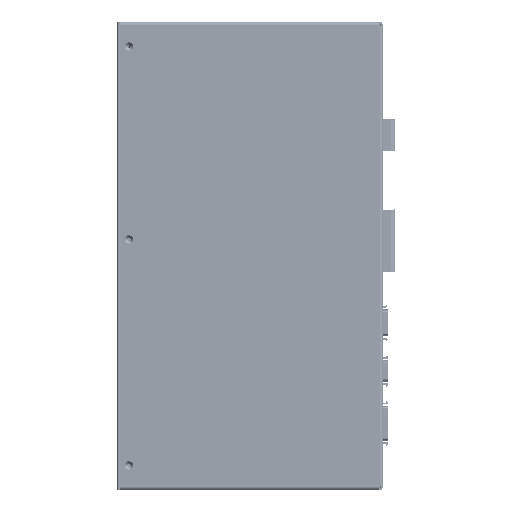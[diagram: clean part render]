
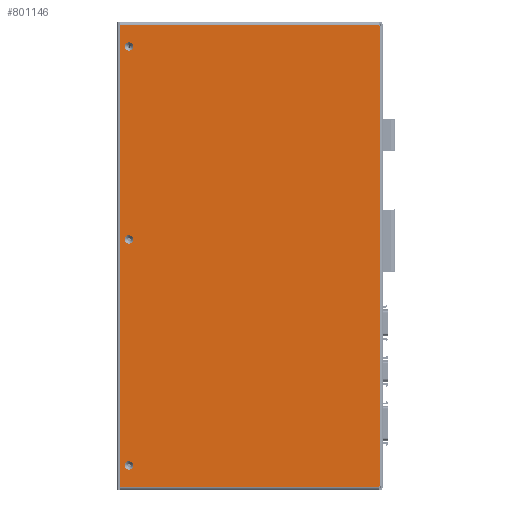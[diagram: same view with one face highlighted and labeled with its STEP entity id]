
A CAD part, front view. The second image highlights one B-rep face of the part: STEP entity #801146.
In plain terms, the highlighted planar face has unit normal (0, -1, 0) as drawn and (0, 0, -1) by its records, which use the part's own axes.
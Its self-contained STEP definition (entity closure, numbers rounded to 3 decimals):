
#758529=DIRECTION('',(0.,1.,0.));
#758530=VECTOR('',#758529,0.2);
#758531=CARTESIAN_POINT('',(-173.8,97.3,-32.));
#758532=LINE('',#758531,#758530);
#767457=DIRECTION('',(1.,0.,0.));
#767458=VECTOR('',#767457,0.2);
#767459=CARTESIAN_POINT('',(173.8,97.3,-32.));
#767460=LINE('',#767459,#767458);
#767479=DIRECTION('',(0.,-1.,0.));
#767480=VECTOR('',#767479,0.2);
#767481=CARTESIAN_POINT('',(173.8,97.5,-32.));
#767482=LINE('',#767481,#767480);
#767646=DIRECTION('',(0.,-1.,0.));
#767647=VECTOR('',#767646,195.9);
#767648=CARTESIAN_POINT('',(-174.,97.3,-32.));
#767649=LINE('',#767648,#767647);
#767650=DIRECTION('',(-1.,0.,0.));
#767651=VECTOR('',#767650,347.6);
#767652=CARTESIAN_POINT('',(173.8,97.5,-32.));
#767653=LINE('',#767652,#767651);
#767654=CARTESIAN_POINT('',(158.,-91.7,-32.));
#767655=DIRECTION('',(0.,0.,1.));
#767656=DIRECTION('',(1.,0.,0.));
#767657=AXIS2_PLACEMENT_3D('',#767654,#767655,#767656);
#767659=CARTESIAN_POINT('',(158.,-91.7,-32.));
#767660=DIRECTION('',(0.,0.,1.));
#767661=DIRECTION('',(-1.,0.,0.));
#767662=AXIS2_PLACEMENT_3D('',#767659,#767660,#767661);
#767664=CARTESIAN_POINT('',(12.5,-91.7,-32.));
#767665=DIRECTION('',(0.,0.,1.));
#767666=DIRECTION('',(-1.,0.,0.));
#767667=AXIS2_PLACEMENT_3D('',#767664,#767665,#767666);
#767669=CARTESIAN_POINT('',(12.5,-91.7,-32.));
#767670=DIRECTION('',(0.,0.,1.));
#767671=DIRECTION('',(1.,0.,0.));
#767672=AXIS2_PLACEMENT_3D('',#767669,#767670,#767671);
#767674=CARTESIAN_POINT('',(-158.,-91.7,-32.));
#767675=DIRECTION('',(0.,0.,1.));
#767676=DIRECTION('',(-1.,0.,0.));
#767677=AXIS2_PLACEMENT_3D('',#767674,#767675,#767676);
#767679=CARTESIAN_POINT('',(-158.,-91.7,-32.));
#767680=DIRECTION('',(0.,0.,1.));
#767681=DIRECTION('',(1.,0.,0.));
#767682=AXIS2_PLACEMENT_3D('',#767679,#767680,#767681);
#775723=DIRECTION('',(1.,0.,0.));
#775724=VECTOR('',#775723,348.);
#775725=CARTESIAN_POINT('',(-174.,-98.6,-32.));
#775726=LINE('',#775725,#775724);
#775858=DIRECTION('',(0.,-1.,0.));
#775859=VECTOR('',#775858,195.9);
#775860=CARTESIAN_POINT('',(174.,97.3,-32.));
#775861=LINE('',#775860,#775859);
#775872=DIRECTION('',(1.,0.,0.));
#775873=VECTOR('',#775872,0.2);
#775874=CARTESIAN_POINT('',(-174.,97.3,-32.));
#775875=LINE('',#775874,#775873);
#782110=CARTESIAN_POINT('',(-174.,97.3,-32.));
#782112=VERTEX_POINT('',#782110);
#782115=CARTESIAN_POINT('',(174.,97.3,-32.));
#782117=VERTEX_POINT('',#782115);
#782119=CARTESIAN_POINT('',(-173.8,97.5,-32.));
#782121=VERTEX_POINT('',#782119);
#782122=CARTESIAN_POINT('',(173.8,97.5,-32.));
#782123=VERTEX_POINT('',#782122);
#782126=CARTESIAN_POINT('',(-173.8,97.3,-32.));
#782127=VERTEX_POINT('',#782126);
#782128=CARTESIAN_POINT('',(173.8,97.3,-32.));
#782129=VERTEX_POINT('',#782128);
#782191=CARTESIAN_POINT('',(-174.,-98.6,-32.));
#782193=VERTEX_POINT('',#782191);
#782194=CARTESIAN_POINT('',(174.,-98.6,-32.));
#782195=VERTEX_POINT('',#782194);
#782226=CARTESIAN_POINT('',(161.15,-91.7,-32.));
#782227=CARTESIAN_POINT('',(154.85,-91.7,-32.));
#782228=VERTEX_POINT('',#782226);
#782229=VERTEX_POINT('',#782227);
#782234=CARTESIAN_POINT('',(9.35,-91.7,-32.));
#782235=CARTESIAN_POINT('',(15.65,-91.7,-32.));
#782236=VERTEX_POINT('',#782234);
#782237=VERTEX_POINT('',#782235);
#782242=CARTESIAN_POINT('',(-161.15,-91.7,-32.));
#782243=CARTESIAN_POINT('',(-154.85,-91.7,-32.));
#782244=VERTEX_POINT('',#782242);
#782245=VERTEX_POINT('',#782243);
#801109=CARTESIAN_POINT('',(0.,0.,-32.));
#801110=DIRECTION('',(0.,0.,-1.));
#801111=DIRECTION('',(-1.,0.,0.));
#801112=AXIS2_PLACEMENT_3D('',#801109,#801110,#801111);
#801113=PLANE('',#801112);
#801115=ORIENTED_EDGE('',*,*,#801114,.T.);
#801117=ORIENTED_EDGE('',*,*,#801116,.T.);
#801119=ORIENTED_EDGE('',*,*,#801118,.F.);
#801120=ORIENTED_EDGE('',*,*,#800763,.F.);
#801121=ORIENTED_EDGE('',*,*,#800792,.F.);
#801122=ORIENTED_EDGE('',*,*,#801102,.T.);
#801123=ORIENTED_EDGE('',*,*,#787200,.F.);
#801125=ORIENTED_EDGE('',*,*,#801124,.F.);
#801126=EDGE_LOOP('',(#801115,#801117,#801119,#801120,#801121,#801122,#801123,
#801125));
#801127=FACE_OUTER_BOUND('',#801126,.F.);
#801129=ORIENTED_EDGE('',*,*,#801128,.F.);
#801131=ORIENTED_EDGE('',*,*,#801130,.F.);
#801132=EDGE_LOOP('',(#801129,#801131));
#801133=FACE_BOUND('',#801132,.F.);
#801135=ORIENTED_EDGE('',*,*,#801134,.F.);
#801137=ORIENTED_EDGE('',*,*,#801136,.F.);
#801138=EDGE_LOOP('',(#801135,#801137));
#801139=FACE_BOUND('',#801138,.F.);
#801141=ORIENTED_EDGE('',*,*,#801140,.F.);
#801143=ORIENTED_EDGE('',*,*,#801142,.F.);
#801144=EDGE_LOOP('',(#801141,#801143));
#801145=FACE_BOUND('',#801144,.F.);
#767658=CIRCLE('',#767657,3.15);
#767663=CIRCLE('',#767662,3.15);
#767668=CIRCLE('',#767667,3.15);
#767673=CIRCLE('',#767672,3.15);
#767678=CIRCLE('',#767677,3.15);
#767683=CIRCLE('',#767682,3.15);
#787200=EDGE_CURVE('',#782127,#782121,#758532,.T.);
#800763=EDGE_CURVE('',#782129,#782117,#767460,.T.);
#800792=EDGE_CURVE('',#782123,#782129,#767482,.T.);
#801102=EDGE_CURVE('',#782123,#782121,#767653,.T.);
#801114=EDGE_CURVE('',#782112,#782193,#767649,.T.);
#801116=EDGE_CURVE('',#782193,#782195,#775726,.T.);
#801118=EDGE_CURVE('',#782117,#782195,#775861,.T.);
#801124=EDGE_CURVE('',#782112,#782127,#775875,.T.);
#801128=EDGE_CURVE('',#782228,#782229,#767658,.T.);
#801130=EDGE_CURVE('',#782229,#782228,#767663,.T.);
#801134=EDGE_CURVE('',#782236,#782237,#767668,.T.);
#801136=EDGE_CURVE('',#782237,#782236,#767673,.T.);
#801140=EDGE_CURVE('',#782244,#782245,#767678,.T.);
#801142=EDGE_CURVE('',#782245,#782244,#767683,.T.);
#801146=ADVANCED_FACE('',(#801127,#801133,#801139,#801145),#801113,.T.);
